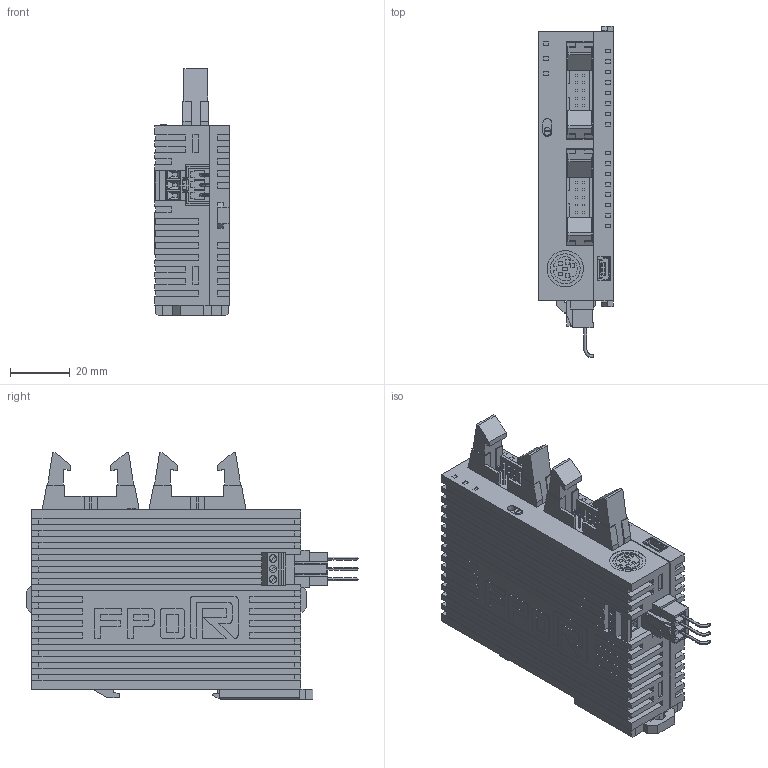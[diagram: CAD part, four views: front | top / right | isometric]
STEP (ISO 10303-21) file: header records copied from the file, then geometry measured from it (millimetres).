
FILE_DESCRIPTION (( 'STEP AP203' ), '1' );
FILE_NAME ('afp0rc16ct.STEP', '2013-06-28T04:07:09', ( 'sunx' ), ( 'sunx' ), 'SwSTEP 2.0', 'SolidWorks 2010', '' );
FILE_SCHEMA (( 'CONFIG_CONTROL_DESIGN' ));
Products named in the file (1): afp0rc16ct
Bounding box: 25 x 111.19 x 82.7 mm (x, y, z)
Volume: 136534.6 mm3; surface area: 30873.8 mm2
Topology: 1 solids, 4 shells, 1065 faces, 2867 edges, 1896 vertices
Faces by surface type: plane 992, cylinder 61, bspline 12
Entity records: 40983 total; most frequent: CARTESIAN_POINT 14145, ORIENTED_EDGE 5734, DIRECTION 5060, EDGE_CURVE 2867, VECTOR 2698, LINE 2698, VERTEX_POINT 1896, AXIS2_PLACEMENT_3D 1181
